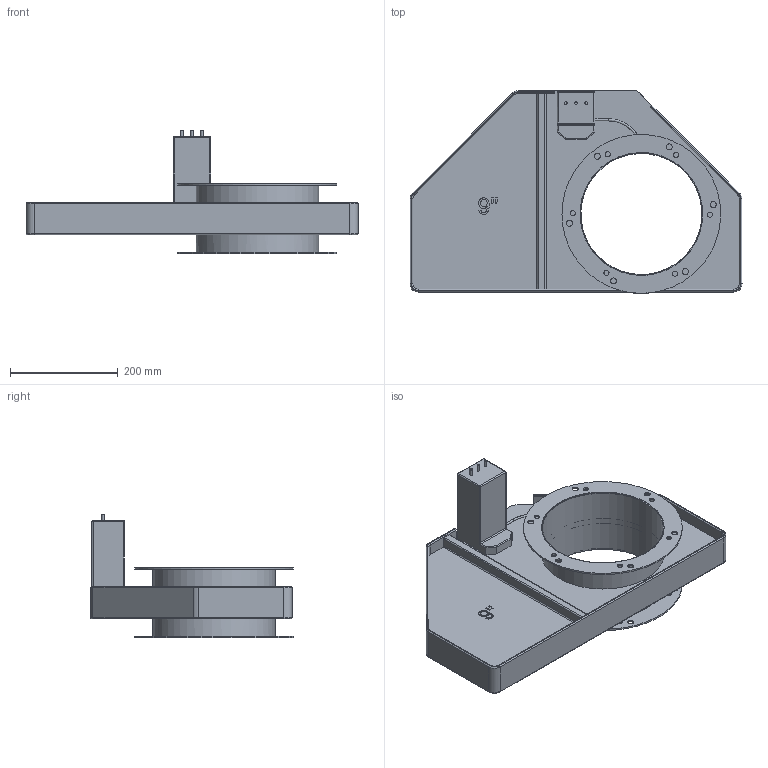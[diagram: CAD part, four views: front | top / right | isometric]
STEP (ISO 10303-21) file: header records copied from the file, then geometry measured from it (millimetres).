
FILE_DESCRIPTION( ('This file contains a STEP AP42 implementation' ,'as created by ZW3D STEP Interface translator.') ,'2;1' );
FILE_NAME( '3D Model-HO209 Body with drive.stp' ,'20 629.135027', (''), ('ZWCAD Software Co.'), 'Version 1.0', 'ZW3D to STEP translator', '' );
FILE_SCHEMA(('AUTOMOTIVE_DESIGN'));
Length unit declared in the file: millimetre
Products named in the file (1): 0
Bounding box: 617.26 x 376.97 x 230.3 mm (x, y, z)
Volume: 3428226.6 mm3; surface area: 840844.9 mm2
Topology: 4 solids, 4 shells, 622 faces, 1594 edges, 1039 vertices
Faces by surface type: bspline 622
Entity records: 20363 total; most frequent: CARTESIAN_POINT 10004, ORIENTED_EDGE 3172, EDGE_CURVE 1586, B_SPLINE_CURVE_WITH_KNOTS 1312, VERTEX_POINT 1029, EDGE_LOOP 733, FACE_OUTER_BOUND 622, ADVANCED_FACE 622
